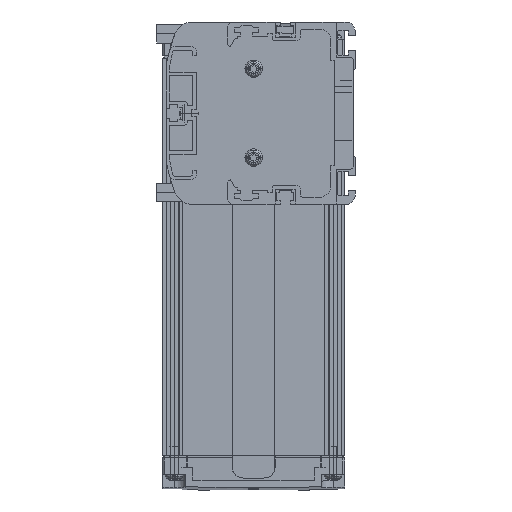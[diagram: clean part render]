
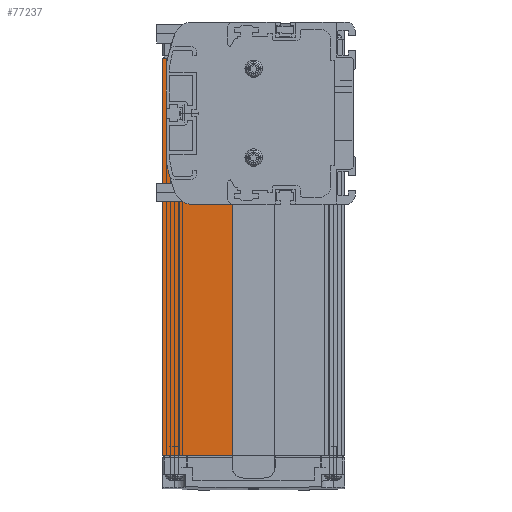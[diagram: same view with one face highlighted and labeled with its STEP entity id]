
A CAD part, left-side view. The second image highlights one B-rep face of the part: STEP entity #77237.
In plain terms, the highlighted planar face has unit normal (-1, 0, 0).
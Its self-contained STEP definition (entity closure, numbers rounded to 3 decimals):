
#75178=DIRECTION('',(0.,0.,1.));
#75179=VECTOR('',#75178,51.);
#75180=CARTESIAN_POINT('',(3.,70.5,-27.5));
#75181=LINE('',#75180,#75179);
#75827=DIRECTION('',(0.,0.,1.));
#75828=VECTOR('',#75827,170.);
#75829=CARTESIAN_POINT('',(3.,82.5,-146.5));
#75830=LINE('',#75829,#75828);
#75845=DIRECTION('',(0.,-1.,0.));
#75846=VECTOR('',#75845,29.9);
#75847=CARTESIAN_POINT('',(3.,82.5,-146.5));
#75848=LINE('',#75847,#75846);
#75849=DIRECTION('',(0.,1.,0.));
#75850=VECTOR('',#75849,12.);
#75851=CARTESIAN_POINT('',(3.,70.5,23.5));
#75852=LINE('',#75851,#75850);
#75853=DIRECTION('',(0.,1.,0.));
#75854=VECTOR('',#75853,17.9);
#75855=CARTESIAN_POINT('',(3.,52.6,-27.5));
#75856=LINE('',#75855,#75854);
#75963=DIRECTION('',(0.,0.,1.));
#75964=VECTOR('',#75963,119.);
#75965=CARTESIAN_POINT('',(3.,52.6,-146.5));
#75966=LINE('',#75965,#75964);
#76050=CARTESIAN_POINT('',(3.,70.5,23.5));
#76052=VERTEX_POINT('',#76050);
#76144=CARTESIAN_POINT('',(3.,82.5,23.5));
#76145=VERTEX_POINT('',#76144);
#76218=CARTESIAN_POINT('',(3.,82.5,-146.5));
#76219=VERTEX_POINT('',#76218);
#76220=CARTESIAN_POINT('',(3.,52.6,-146.5));
#76221=VERTEX_POINT('',#76220);
#76282=CARTESIAN_POINT('',(3.,70.5,-27.5));
#76283=VERTEX_POINT('',#76282);
#76284=CARTESIAN_POINT('',(3.,52.6,-27.5));
#76285=VERTEX_POINT('',#76284);
#77222=CARTESIAN_POINT('',(3.,67.55,-61.5));
#77223=DIRECTION('',(1.,0.,0.));
#77224=DIRECTION('',(0.,1.,0.));
#77225=AXIS2_PLACEMENT_3D('',#77222,#77223,#77224);
#77226=PLANE('',#77225);
#77227=ORIENTED_EDGE('',*,*,#76468,.F.);
#77229=ORIENTED_EDGE('',*,*,#77228,.F.);
#77231=ORIENTED_EDGE('',*,*,#77230,.F.);
#77232=ORIENTED_EDGE('',*,*,#76796,.F.);
#77233=ORIENTED_EDGE('',*,*,#77210,.T.);
#77234=ORIENTED_EDGE('',*,*,#76337,.F.);
#77235=EDGE_LOOP('',(#77227,#77229,#77231,#77232,#77233,#77234));
#77236=FACE_OUTER_BOUND('',#77235,.F.);
#77237=ADVANCED_FACE('',(#77236),#77226,.F.);
#76337=EDGE_CURVE('',#76052,#76145,#75852,.T.);
#76468=EDGE_CURVE('',#76283,#76052,#75181,.T.);
#76796=EDGE_CURVE('',#76219,#76221,#75848,.T.);
#77210=EDGE_CURVE('',#76219,#76145,#75830,.T.);
#77228=EDGE_CURVE('',#76285,#76283,#75856,.T.);
#77230=EDGE_CURVE('',#76221,#76285,#75966,.T.);
